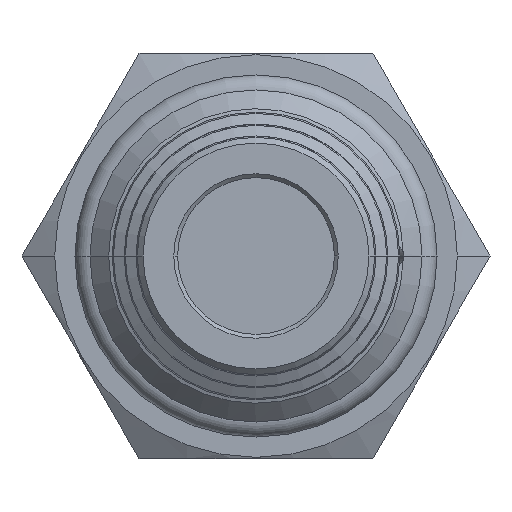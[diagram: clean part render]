
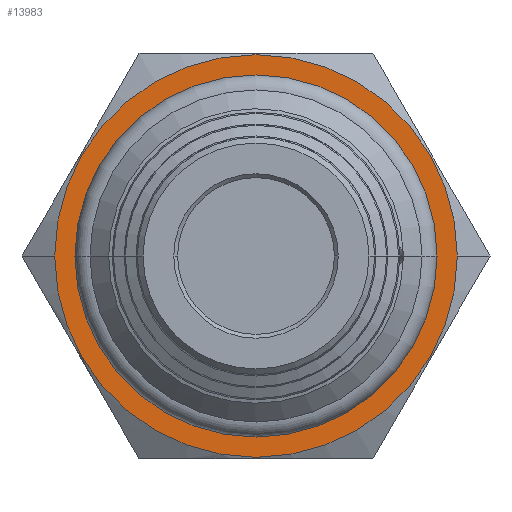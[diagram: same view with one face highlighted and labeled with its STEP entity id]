
A CAD part, front view. The second image highlights one B-rep face of the part: STEP entity #13983.
In plain terms, the highlighted planar face has unit normal (0, -1, 0).
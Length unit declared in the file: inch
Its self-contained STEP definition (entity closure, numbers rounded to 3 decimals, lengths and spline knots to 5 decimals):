
#1008=CARTESIAN_POINT('',(0.,0.,0.));
#1009=DIRECTION('',(0.,-1.,0.));
#1010=DIRECTION('',(1.,0.,0.));
#1011=AXIS2_PLACEMENT_3D('',#1008,#1009,#1010);
#1016=CARTESIAN_POINT('',(0.,0.,0.));
#1017=DIRECTION('',(0.,1.,0.));
#1018=DIRECTION('',(1.,0.,0.));
#1019=AXIS2_PLACEMENT_3D('',#1016,#1017,#1018);
#1024=CARTESIAN_POINT('',(0.,0.,0.));
#1025=DIRECTION('',(0.,-1.,0.));
#1026=DIRECTION('',(1.,0.,0.));
#1027=AXIS2_PLACEMENT_3D('',#1024,#1025,#1026);
#1032=CARTESIAN_POINT('',(0.,0.,0.));
#1033=DIRECTION('',(0.,-1.,0.));
#1034=DIRECTION('',(-1.,0.,0.));
#1035=AXIS2_PLACEMENT_3D('',#1032,#1033,#1034);
#13199=CARTESIAN_POINT('',(0.5275,0.,0.));
#13201=VERTEX_POINT('',#13199);
#13227=CARTESIAN_POINT('',(-0.5275,0.,0.));
#13229=VERTEX_POINT('',#13227);
#13664=CARTESIAN_POINT('',(0.43733,0.,0.));
#13665=CARTESIAN_POINT('',(-0.43733,0.,0.));
#13666=VERTEX_POINT('',#13664);
#13667=VERTEX_POINT('',#13665);
#13968=CARTESIAN_POINT('',(0.,0.,0.));
#13969=DIRECTION('',(0.,1.,0.));
#13970=DIRECTION('',(1.,0.,0.));
#13971=AXIS2_PLACEMENT_3D('',#13968,#13969,#13970);
#13972=PLANE('',#13971);
#13973=ORIENTED_EDGE('',*,*,#13961,.F.);
#13974=ORIENTED_EDGE('',*,*,#13950,.T.);
#13975=EDGE_LOOP('',(#13973,#13974));
#13976=FACE_OUTER_BOUND('',#13975,.F.);
#13978=ORIENTED_EDGE('',*,*,#13977,.T.);
#13980=ORIENTED_EDGE('',*,*,#13979,.T.);
#13981=EDGE_LOOP('',(#13978,#13980));
#13982=FACE_BOUND('',#13981,.F.);
#1012=CIRCLE('',#1011,0.5275);
#1020=CIRCLE('',#1019,0.5275);
#1028=CIRCLE('',#1027,0.43733);
#1036=CIRCLE('',#1035,0.43733);
#13950=EDGE_CURVE('',#13201,#13229,#1020,.T.);
#13961=EDGE_CURVE('',#13201,#13229,#1012,.T.);
#13977=EDGE_CURVE('',#13666,#13667,#1028,.T.);
#13979=EDGE_CURVE('',#13667,#13666,#1036,.T.);
#13983=ADVANCED_FACE('',(#13976,#13982),#13972,.F.);
